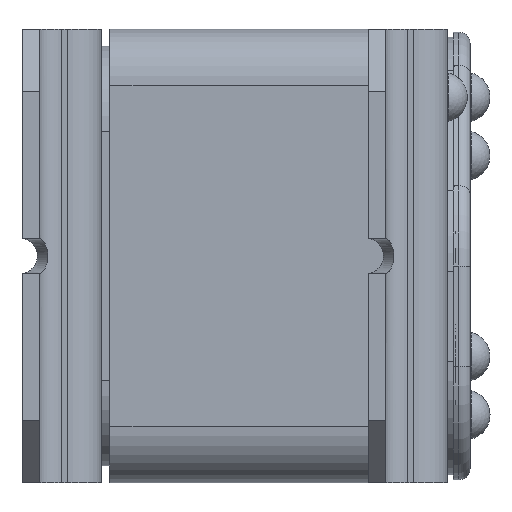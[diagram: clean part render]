
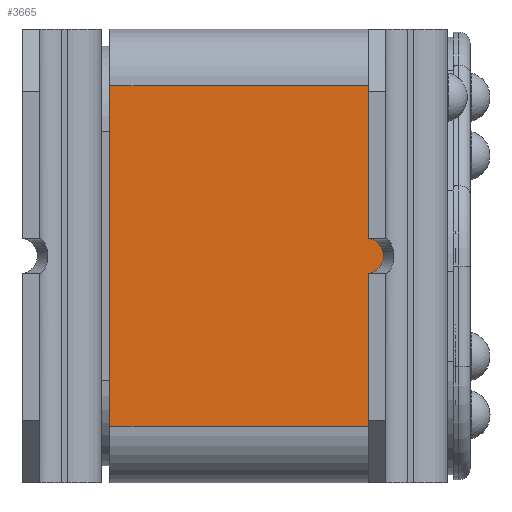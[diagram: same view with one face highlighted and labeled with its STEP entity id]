
A CAD part, left-side view. The second image highlights one B-rep face of the part: STEP entity #3665.
In plain terms, the highlighted planar face has unit normal (-1, 0, 0).
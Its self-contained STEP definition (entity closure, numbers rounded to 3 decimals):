
#29 = DIRECTION ( 'NONE',  ( 0., 1., 0. ) ) ;
#209 = ORIENTED_EDGE ( 'NONE', *, *, #6355, .F. ) ;
#596 = LINE ( 'NONE', #15073, #5946 ) ;
#2145 = FACE_OUTER_BOUND ( 'NONE', #17721, .T. ) ;
#2434 = VECTOR ( 'NONE', #13615, 1000. ) ;
#2610 = ORIENTED_EDGE ( 'NONE', *, *, #18145, .F. ) ;
#2780 = VECTOR ( 'NONE', #29, 1000. ) ;
#3665 = ADVANCED_FACE ( 'NONE', ( #2145 ), #5693, .F. ) ;
#4071 = CARTESIAN_POINT ( 'NONE',  ( -40., -27.5, -30. ) ) ;
#4817 = CARTESIAN_POINT ( 'NONE',  ( -40., -27.5, -30. ) ) ;
#5593 = CARTESIAN_POINT ( 'NONE',  ( -40., -27.5, -30. ) ) ;
#5693 = PLANE ( 'NONE',  #9985 ) ;
#5946 = VECTOR ( 'NONE', #18417, 1000. ) ;
#6355 = EDGE_CURVE ( 'NONE', #18578, #15850, #10054, .T. ) ;
#7247 = CARTESIAN_POINT ( 'NONE',  ( -40., -27.5, -30. ) ) ;
#8776 = CARTESIAN_POINT ( 'NONE',  ( -40., -27.5, 30. ) ) ;
#9222 = ORIENTED_EDGE ( 'NONE', *, *, #16928, .T. ) ;
#9985 = AXIS2_PLACEMENT_3D ( 'NONE', #4071, #15540, #15747 ) ;
#10054 = LINE ( 'NONE', #7247, #2434 ) ;
#10491 = DIRECTION ( 'NONE',  ( 0., 1., 0. ) ) ;
#10527 = ORIENTED_EDGE ( 'NONE', *, *, #18753, .T. ) ;
#11958 = LINE ( 'NONE', #4817, #2780 ) ;
#11974 = VERTEX_POINT ( 'NONE', #12764 ) ;
#12321 = LINE ( 'NONE', #20188, #14620 ) ;
#12764 = CARTESIAN_POINT ( 'NONE',  ( -40., 27.5, -30. ) ) ;
#13615 = DIRECTION ( 'NONE',  ( 0., 0., -1. ) ) ;
#14086 = CARTESIAN_POINT ( 'NONE',  ( -40., 27.5, 30. ) ) ;
#14620 = VECTOR ( 'NONE', #10491, 1000. ) ;
#15073 = CARTESIAN_POINT ( 'NONE',  ( -40., 27.5, -30. ) ) ;
#15540 = DIRECTION ( 'NONE',  ( 1., 0., 0. ) ) ;
#15747 = DIRECTION ( 'NONE',  ( 0., 0., 1. ) ) ;
#15850 = VERTEX_POINT ( 'NONE', #5593 ) ;
#16928 = EDGE_CURVE ( 'NONE', #18039, #11974, #596, .T. ) ;
#17721 = EDGE_LOOP ( 'NONE', ( #9222, #2610, #209, #10527 ) ) ;
#18039 = VERTEX_POINT ( 'NONE', #14086 ) ;
#18145 = EDGE_CURVE ( 'NONE', #15850, #11974, #11958, .T. ) ;
#18417 = DIRECTION ( 'NONE',  ( 0., 0., -1. ) ) ;
#18578 = VERTEX_POINT ( 'NONE', #8776 ) ;
#18753 = EDGE_CURVE ( 'NONE', #18578, #18039, #12321, .T. ) ;
#20188 = CARTESIAN_POINT ( 'NONE',  ( -40., -27.5, 30. ) ) ;
